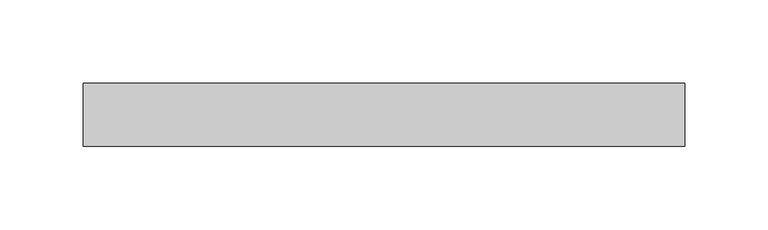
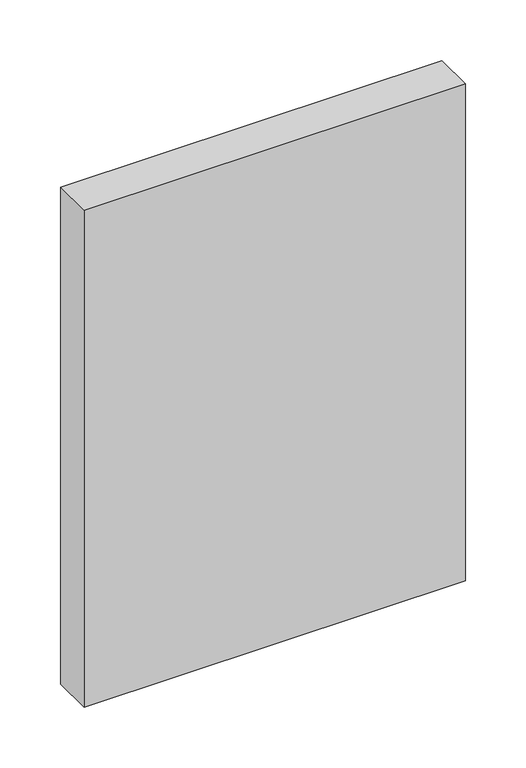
"""IFC4 building model written with IfcOpenShell, lengths in millimetres: proxy geometry, FOUNDATION^PEDESTAL_PLINTH-14.25x19.63."""

from ifc_helpers import new_model, si_unit, frame, origin, place, context, project, spatial, polyline, outline, extrude, source, transform, mapped, element, save


def generic_models_29dc5ad5(model_context):
    return source(origin(), model_context, "Body", "SweptSolid", [
        extrude(outline(polyline([(361.95, 0.0), (0.0, 0.0), (0.0, 38.1), (361.95, 38.1), (361.95, 0.0)])), frame((0.0, 0.0, -498.475), z_axis=(0.0, 0.0, 1.0), x_axis=(1.0, 0.0, 0.0)), (0.0, 0.0, 1.0), 498.475),
    ])


if __name__ == "__main__":
    model = new_model("IFC4")
    model_context = context("Model", 3, world=origin())
    ifc_project = project(units=[si_unit("LENGTHUNIT", "METRE", prefix="MILLI")], contexts=[model_context])
    site = spatial("IfcSite", under=ifc_project)
    building = spatial("IfcBuilding", under=site)
    placement = place(None, origin())
    generic_models_shape = generic_models_29dc5ad5(model_context)
    element("IfcBuildingElementProxy", 1, Name="FOUNDATION^PEDESTAL_PLINTH-14.25x19.63", ObjectType="FOUNDATION^PEDESTAL_PLINTH-14.25x19.63", at=placement, inside=building, context=model_context, shape_type="MappedRepresentation", body=[
        mapped(generic_models_shape, transform((0.0, 0.0, 0.0), x_axis=(1.0, 0.0, 0.0), y_axis=(0.0, 1.0, 0.0), z_axis=(0.0, 0.0, 1.0))),
    ])
    save(model, "model.ifc")
